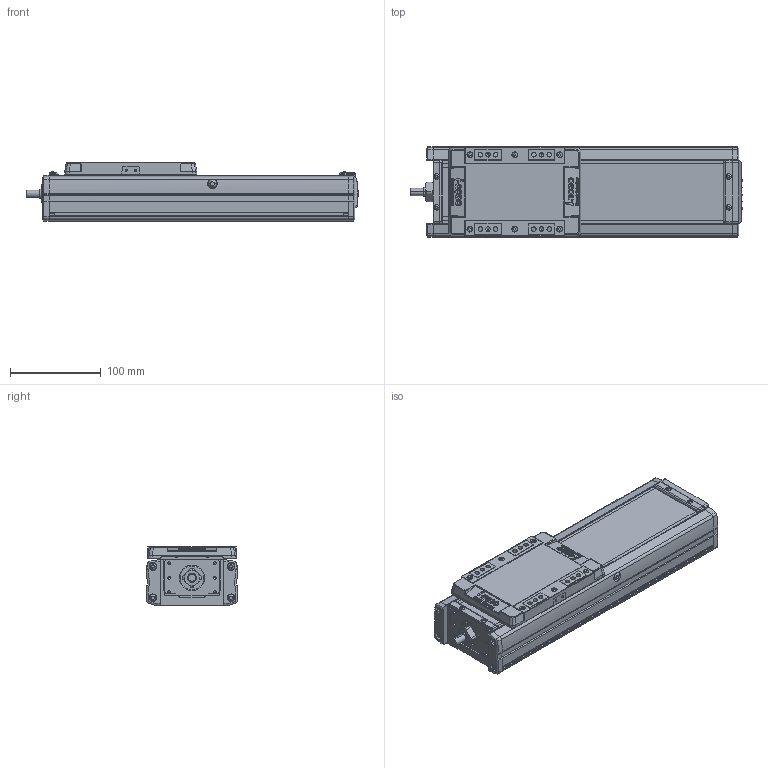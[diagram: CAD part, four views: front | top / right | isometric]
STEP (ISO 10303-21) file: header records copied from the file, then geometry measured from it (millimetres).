
FILE_DESCRIPTION(('STEP AP214'),'1');
FILE_NAME('Z:/Web/3D/SAN100/SAN100 양산용 (STEP)/SAN100ㅁㅁ-150.stp','2013-04-24T07:00:58',(' '),(' '),'Spatial InterOp 3D',' ',' ');
FILE_SCHEMA(('automotive_design'));
Length unit declared in the file: millimetre
Products named in the file (32): SUS COVER; SFX-SAN100; RRCV-SAN100; 스크루 : Round - M4.0 x 10.0; M3.0 x 6.0; 스크루 : Round - M3.0 x 6.0; FRBL-SAN100; SLBL-SAN100; SLCV-SAN100; 스크루 : Countersunk - M3.0 x 6.0; BASE; 스크루 : Round - M5.0 x 6.0; 너트 : Square - M10.0 x 220.7419; RR1500-000L; FRCV-SAN100
Bounding box: 366 x 100 x 66 mm (x, y, z)
Volume: 1069580.3 mm3; surface area: 295082.5 mm2
Topology: 32 solids, 33 shells, 1860 faces, 4844 edges, 3117 vertices
Faces by surface type: plane 941, cylinder 667, cone 174, sphere 40, torus 26, bspline 12
Entity records: 73227 total; most frequent: CARTESIAN_POINT 11067, DIRECTION 10171, ORIENTED_EDGE 9548, EDGE_CURVE 4774, AXIS2_PLACEMENT_3D 3618, VERTEX_POINT 3117, LINE 2935, VECTOR 2935
